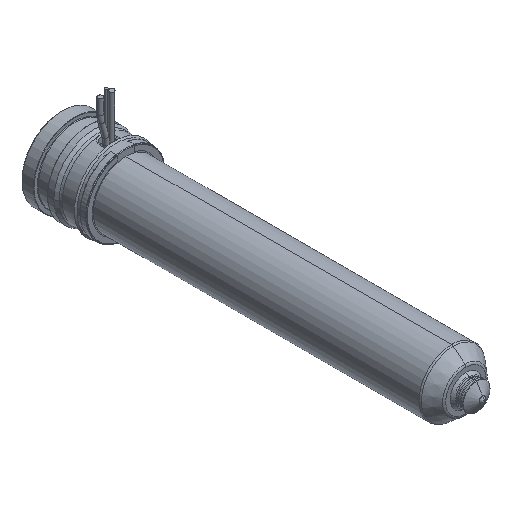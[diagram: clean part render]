
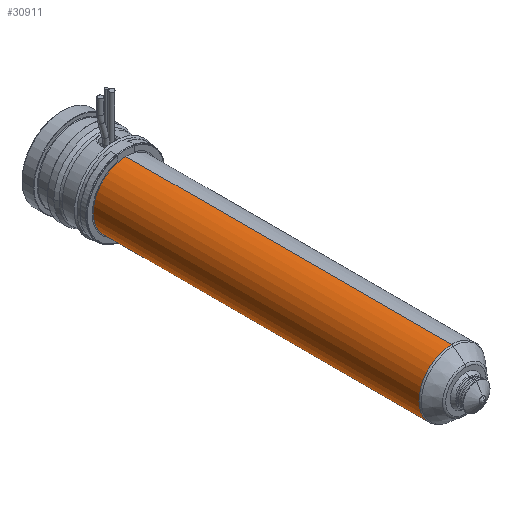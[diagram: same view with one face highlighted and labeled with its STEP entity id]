
A CAD part, isometric view. The second image highlights one B-rep face of the part: STEP entity #30911.
In plain terms, the highlighted cylindrical face has radius 12 mm (diameter 24 mm), a partial arc.
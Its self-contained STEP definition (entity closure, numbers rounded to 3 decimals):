
#30396=CARTESIAN_POINT('',(0.,-24.,0.));
#30397=DIRECTION('',(0.,1.,0.));
#30398=DIRECTION('',(0.,0.,-1.));
#30399=AXIS2_PLACEMENT_3D('',#30396,#30397,#30398);
#30404=DIRECTION('',(0.,1.,0.));
#30405=VECTOR('',#30404,119.736);
#30406=CARTESIAN_POINT('',(0.,-143.736,12.));
#30407=LINE('',#30406,#30405);
#30419=DIRECTION('',(0.,1.,0.));
#30420=VECTOR('',#30419,119.736);
#30421=CARTESIAN_POINT('',(0.,-143.736,-12.));
#30422=LINE('',#30421,#30420);
#30450=CARTESIAN_POINT('',(0.,-143.736,0.));
#30451=DIRECTION('',(0.,-1.,0.));
#30452=DIRECTION('',(0.,0.,1.));
#30453=AXIS2_PLACEMENT_3D('',#30450,#30451,#30452);
#30780=CARTESIAN_POINT('',(0.,-143.736,12.));
#30781=CARTESIAN_POINT('',(0.,-24.,12.));
#30782=VERTEX_POINT('',#30780);
#30783=VERTEX_POINT('',#30781);
#30784=CARTESIAN_POINT('',(0.,-143.736,-12.));
#30785=CARTESIAN_POINT('',(0.,-24.,-12.));
#30786=VERTEX_POINT('',#30784);
#30787=VERTEX_POINT('',#30785);
#30897=CARTESIAN_POINT('',(0.,-13.2,0.));
#30898=DIRECTION('',(0.,-1.,0.));
#30899=DIRECTION('',(0.,0.,1.));
#30900=AXIS2_PLACEMENT_3D('',#30897,#30898,#30899);
#30901=CYLINDRICAL_SURFACE('',#30900,12.);
#30903=ORIENTED_EDGE('',*,*,#30902,.F.);
#30905=ORIENTED_EDGE('',*,*,#30904,.T.);
#30907=ORIENTED_EDGE('',*,*,#30906,.T.);
#30908=ORIENTED_EDGE('',*,*,#30890,.T.);
#30909=EDGE_LOOP('',(#30903,#30905,#30907,#30908));
#30910=FACE_OUTER_BOUND('',#30909,.F.);
#30911=ADVANCED_FACE('',(#30910),#30901,.T.);
#30400=CIRCLE('',#30399,12.);
#30454=CIRCLE('',#30453,12.);
#30890=EDGE_CURVE('',#30787,#30783,#30400,.T.);
#30902=EDGE_CURVE('',#30782,#30783,#30407,.T.);
#30904=EDGE_CURVE('',#30782,#30786,#30454,.T.);
#30906=EDGE_CURVE('',#30786,#30787,#30422,.T.);
